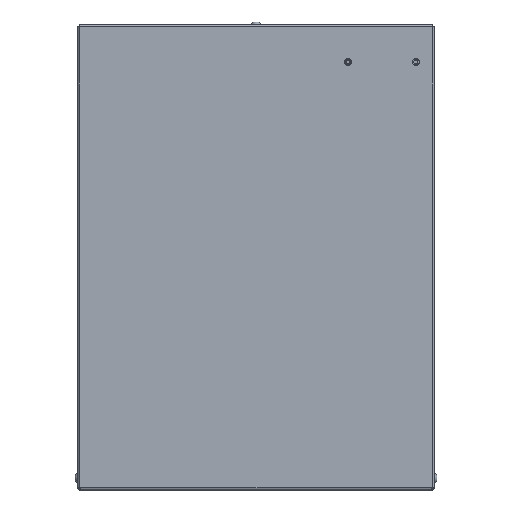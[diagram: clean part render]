
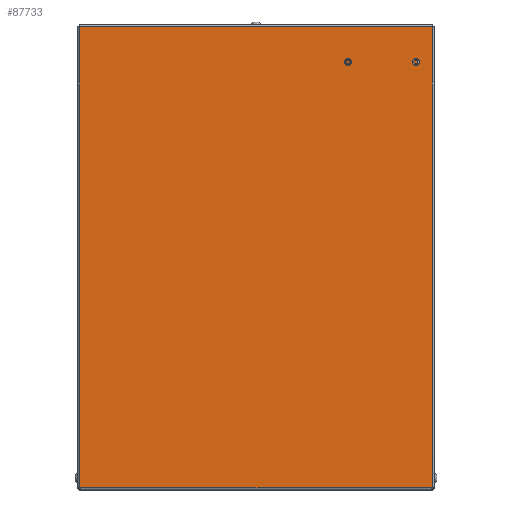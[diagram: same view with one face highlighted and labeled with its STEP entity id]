
A CAD part, top view. The second image highlights one B-rep face of the part: STEP entity #87733.
In plain terms, the highlighted planar face has unit normal (0, 0, 1).
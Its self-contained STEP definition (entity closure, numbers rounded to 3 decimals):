
#3723=LINE('',#119746,#11228);
#3724=LINE('',#119750,#11229);
#3725=LINE('',#119752,#11230);
#3726=LINE('',#119754,#11231);
#11228=VECTOR('',#100561,1000.);
#11229=VECTOR('',#100564,1000.);
#11230=VECTOR('',#100565,1000.);
#11231=VECTOR('',#100566,1000.);
#20088=ORIENTED_EDGE('',*,*,#37746,.F.);
#20089=ORIENTED_EDGE('',*,*,#37747,.F.);
#20090=ORIENTED_EDGE('',*,*,#37748,.T.);
#20091=ORIENTED_EDGE('',*,*,#37749,.F.);
#20092=ORIENTED_EDGE('',*,*,#37750,.T.);
#20093=ORIENTED_EDGE('',*,*,#37751,.T.);
#37746=EDGE_CURVE('',#46201,#46202,#50528,.T.);
#37747=EDGE_CURVE('',#46203,#46201,#3723,.T.);
#37748=EDGE_CURVE('',#46203,#46204,#50529,.T.);
#37749=EDGE_CURVE('',#46205,#46204,#3724,.T.);
#37750=EDGE_CURVE('',#46205,#46206,#3725,.T.);
#37751=EDGE_CURVE('',#46206,#46202,#3726,.T.);
#46201=VERTEX_POINT('',#119744);
#46202=VERTEX_POINT('',#119745);
#46203=VERTEX_POINT('',#119747);
#46204=VERTEX_POINT('',#119749);
#46205=VERTEX_POINT('',#119751);
#46206=VERTEX_POINT('',#119753);
#50528=CIRCLE('',#91926,0.863);
#50529=CIRCLE('',#91927,0.863);
#52400=EDGE_LOOP('',(#20088,#20089,#20090,#20091,#20092,#20093));
#57102=FACE_BOUND('',#52400,.T.);
#61213=PLANE('',#91925);
#87733=ADVANCED_FACE('',(#57102),#61213,.T.);
#91925=AXIS2_PLACEMENT_3D('',#119742,#100557,#100558);
#91926=AXIS2_PLACEMENT_3D('',#119743,#100559,#100560);
#91927=AXIS2_PLACEMENT_3D('',#119748,#100562,#100563);
#100557=DIRECTION('',(0.,0.,1.));
#100558=DIRECTION('',(1.,0.,0.));
#100559=DIRECTION('',(0.,0.,1.));
#100560=DIRECTION('',(-1.,0.,0.));
#100561=DIRECTION('',(-1.,0.,0.));
#100562=DIRECTION('',(0.,0.,-1.));
#100563=DIRECTION('',(1.,0.,0.));
#100564=DIRECTION('',(0.,-1.,0.));
#100565=DIRECTION('',(-1.,0.,0.));
#100566=DIRECTION('',(0.,-1.,0.));
#119742=CARTESIAN_POINT('',(0.,-136.35,38.75));
#119743=CARTESIAN_POINT('',(-104.3,-135.65,38.75));
#119744=CARTESIAN_POINT('',(-103.679,-135.05,38.75));
#119745=CARTESIAN_POINT('',(-103.7,-135.029,38.75));
#119746=CARTESIAN_POINT('',(0.,-135.05,38.75));
#119747=CARTESIAN_POINT('',(103.679,-135.05,38.75));
#119748=CARTESIAN_POINT('',(104.3,-135.65,38.75));
#119749=CARTESIAN_POINT('',(103.7,-135.029,38.75));
#119750=CARTESIAN_POINT('',(103.7,136.35,38.75));
#119751=CARTESIAN_POINT('',(103.7,136.35,38.75));
#119752=CARTESIAN_POINT('',(0.,136.35,38.75));
#119753=CARTESIAN_POINT('',(-103.7,136.35,38.75));
#119754=CARTESIAN_POINT('',(-103.7,136.35,38.75));
